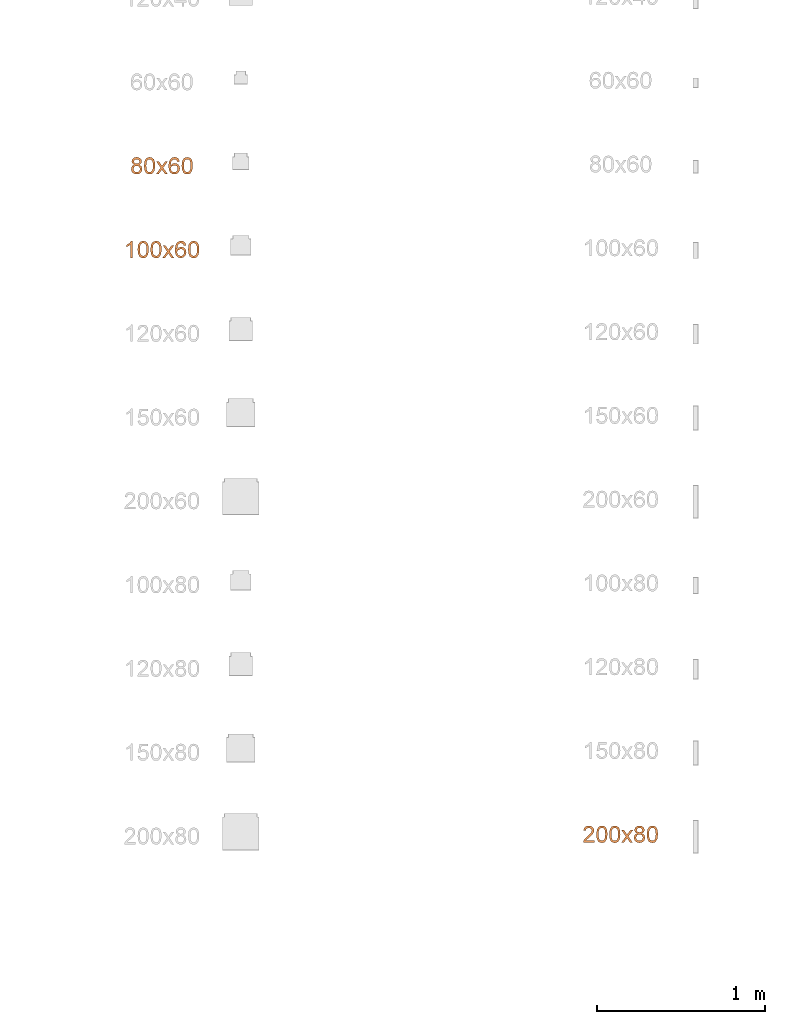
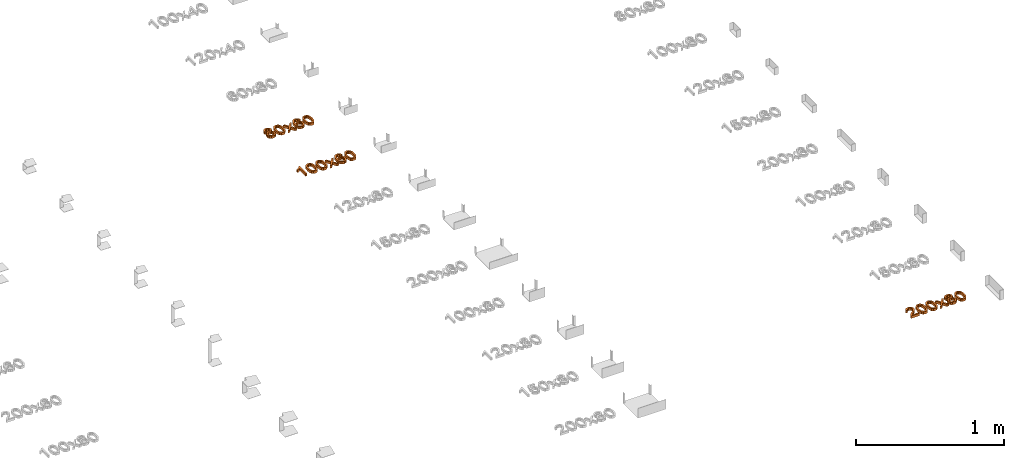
# One storey, part 56 of 71: 3 proxies.
"""IFC2X3 building model written with IfcOpenShell, lengths in millimetres."""

from ifc_helpers import new_model, entity, si_unit, converted_unit, derived_unit, direction, frame, origin, place, context, subcontext, project, spatial, polyline, outline, extrude, element, save


model = new_model("IFC2X3")

# Units and contexts
model_context = context("Model", 3, precision=0.01, world=origin(), true_north=direction((6.12303176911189e-17, 1.0)))
body_context = subcontext(model_context, "Body", "Model", "MODEL_VIEW")
ifc_project = project(units=[si_unit("LENGTHUNIT", "METRE", prefix="MILLI"), si_unit("AREAUNIT", "SQUARE_METRE"), si_unit("VOLUMEUNIT", "CUBIC_METRE"), converted_unit("PLANEANGLEUNIT", "DEGREE", entity("IfcRatioMeasure", 0.0174532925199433), si_unit("PLANEANGLEUNIT", "RADIAN"), dimensions=[0, 0, 0, 0, 0, 0, 0]), si_unit("MASSUNIT", "GRAM", prefix="KILO"), derived_unit("MASSDENSITYUNIT", [(si_unit("MASSUNIT", "GRAM", prefix="KILO"), 1), (si_unit("LENGTHUNIT", "METRE"), -3)]), si_unit("TIMEUNIT", "SECOND"), si_unit("FREQUENCYUNIT", "HERTZ"), si_unit("THERMODYNAMICTEMPERATUREUNIT", "DEGREE_CELSIUS"), derived_unit("THERMALTRANSMITTANCEUNIT", [(si_unit("MASSUNIT", "GRAM", prefix="KILO"), 1), (si_unit("THERMODYNAMICTEMPERATUREUNIT", "KELVIN"), -1), (si_unit("TIMEUNIT", "SECOND"), -3)]), derived_unit("VOLUMETRICFLOWRATEUNIT", [(si_unit("LENGTHUNIT", "METRE"), 3), (si_unit("TIMEUNIT", "SECOND"), -1)]), si_unit("ELECTRICCURRENTUNIT", "AMPERE"), si_unit("ELECTRICVOLTAGEUNIT", "VOLT"), si_unit("POWERUNIT", "WATT"), si_unit("FORCEUNIT", "NEWTON", prefix="KILO"), si_unit("ILLUMINANCEUNIT", "LUX"), si_unit("LUMINOUSFLUXUNIT", "LUMEN"), si_unit("LUMINOUSINTENSITYUNIT", "CANDELA"), derived_unit("USERDEFINED", [(si_unit("MASSUNIT", "GRAM", prefix="KILO"), -1), (si_unit("LENGTHUNIT", "METRE"), -2), (si_unit("TIMEUNIT", "SECOND"), 3), (si_unit("LUMINOUSFLUXUNIT", "LUMEN"), 1)]), derived_unit("LINEARVELOCITYUNIT", [(si_unit("LENGTHUNIT", "METRE"), 1), (si_unit("TIMEUNIT", "SECOND"), -1)]), si_unit("PRESSUREUNIT", "PASCAL"), derived_unit("USERDEFINED", [(si_unit("LENGTHUNIT", "METRE"), -2), (si_unit("MASSUNIT", "GRAM", prefix="KILO"), 1), (si_unit("TIMEUNIT", "SECOND"), -2)])], contexts=[model_context])

# Site, building, storey
site_placement = place(None, origin())
site = spatial("IfcSite", under=ifc_project, at=site_placement, Name="Default", CompositionType="ELEMENT")
building_placement = place(site_placement, origin())
building = spatial("IfcBuilding", under=site, at=building_placement, Name="Наименование здания", CompositionType="ELEMENT")
storey_placement = place(building_placement, origin())
storey = spatial("IfcBuildingStorey", under=building, at=storey_placement, Name="Этаж 01", CompositionType="ELEMENT", Elevation=0.0)

# Proxies
proxy_1_placement = place(storey_placement, origin())
element("IfcBuildingElementProxy", 1, at=proxy_1_placement, inside=storey, Name="Текст модели:100 мм Arial", ObjectType="Текст модели:100 мм Arial", context=body_context, shape_type="SweptSolid", body=[
    extrude(outline(polyline([(10.1224324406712, -11.221212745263), (26.4477736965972, -11.221212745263), (39.6861381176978, -0.090941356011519), (44.6322314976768, 11.3078156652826), (44.5856416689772, 23.416860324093), (39.6073830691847, 34.8346290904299), (29.7584701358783, 44.1595584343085), (17.4236057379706, 49.795656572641), (4.98749274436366, 50.1469317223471), (-6.20047708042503, 45.723606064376), (-14.790911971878, 37.0359017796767), (-20.0781666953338, 21.0056847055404), (-14.5070621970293, 5.37692494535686), (-28.0684052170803, 5.15563707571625), (-37.7221714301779, -2.60845010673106), (-41.5236361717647, -11.9357006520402), (-41.0036870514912, -22.2232653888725), (-36.1916154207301, -32.1870777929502), (-27.1167126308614, -40.5430713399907), (-16.0503295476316, -45.8123091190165), (-5.1824644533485, -46.5706787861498), (4.38453303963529, -43.2361071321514), (11.5483133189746, -36.2265209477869), (15.2516244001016, -24.0826582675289), (10.1224324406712, -11.221212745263)]), holes=[polyline([(1.34077476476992, -28.9039041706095), (-7.53771017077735, -33.9815875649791), (-20.2415350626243, -30.0339976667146), (-28.5905650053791, -19.6902819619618), (-26.9800933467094, -9.13787919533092), (-18.1108932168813, -3.87648928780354), (-5.45128168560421, -7.82385811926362), (3.15927028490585, -18.240304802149), (1.34077476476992, -28.9039041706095)]), polyline([(29.0262968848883, 6.56051660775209), (17.1806533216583, -1.51571690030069), (9.68494123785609, -1.27757268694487), (1.95268767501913, 2.3288558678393), (-4.46267094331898, 8.27886886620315), (-7.64161156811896, 15.3010558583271), (-4.59707955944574, 29.6929468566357), (7.31333657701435, 37.799466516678), (14.8367372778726, 37.4872096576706), (22.6595729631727, 33.8012523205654), (30.3730358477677, 25.5864099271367), (32.5711030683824, 15.5727469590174), (29.0262968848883, 6.56051660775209)])]), frame((21251.8607415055, -411.654222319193, 0.0), z_axis=(0.0, 0.0, 1.0), x_axis=(-0.829266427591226, -0.558853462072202, 0.0)), (0.0, 0.0, 1.0), 20.0),
    extrude(outline(polyline([(-7.02884310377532, -33.3490673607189), (17.5323805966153, -33.3490673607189), (35.1984171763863, -27.6137612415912), (43.3439841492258, -18.487651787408), (47.0516941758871, -5.75150665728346), (46.7162020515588, 4.48638208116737), (43.4465778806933, 13.0955287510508), (27.944430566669, 25.6659118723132), (-0.314338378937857, 32.2325535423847), (-24.0296505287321, 32.3678288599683), (-39.4143020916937, 28.0260881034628), (-49.7293680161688, 18.9002174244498), (-54.4436715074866, 4.63998875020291), (-50.8676582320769, -14.1301059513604), (-35.4058547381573, -26.7333390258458), (-7.02884310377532, -33.3490673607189)]), holes=[polyline([(-5.77428774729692, -20.8548320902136), (-25.0157644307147, -17.3562860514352), (-36.725708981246, -11.57179224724), (-41.0962588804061, -4.77599682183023), (-41.9669219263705, 3.21464792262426), (-39.2244253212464, 11.2791292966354), (-32.8654063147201, 17.2229259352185), (-20.9698370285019, 20.2947501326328), (-1.6176895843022, 19.7433141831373), (17.8514140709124, 16.2707701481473), (28.780364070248, 10.714159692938), (33.5546988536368, 3.61815959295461), (34.5599568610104, -4.47255337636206), (31.9421230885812, -12.1923199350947), (25.8471825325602, -18.1754808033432), (14.0250679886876, -21.4027476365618), (-5.77428774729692, -20.8548320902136)])]), frame((21329.7029366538, -417.512078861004, 0.0), z_axis=(0.0, 0.0, 1.0), x_axis=(0.101851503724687, -0.994799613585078, 0.0)), (0.0, 0.0, 1.0), 20.0),
    extrude(outline(polyline([(-34.5302215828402, -38.4265006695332), (-19.4225343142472, -38.4265006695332), (-0.341721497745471, -12.0616243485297), (2.47870713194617, -16.1328517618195), (17.8561745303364, -38.4265006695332), (32.9638617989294, -38.4265006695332), (7.40832586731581, -1.34399555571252), (33.9448804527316, 35.3461020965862), (18.8371931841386, 35.3461020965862), (4.95577923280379, 16.1671874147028), (0.0261604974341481, 9.34910777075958), (-5.66374769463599, 17.6877663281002), (-17.8529044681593, 35.3461020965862), (-32.9605917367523, 35.3461020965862), (-7.69936140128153, -1.34399555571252), (-34.5302215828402, -38.4265006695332)])), frame((21402.5445935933, -424.908755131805, 0.0)), (0.0, 0.0, 1.0), 20.0),
    extrude(outline(polyline([(6.79275401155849, -32.5027761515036), (18.3659045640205, -32.5027761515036), (28.1525204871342, -28.8011371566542), (35.6312934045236, -21.7178704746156), (40.2809149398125, -11.5729874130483), (41.4130789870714, 3.23667074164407), (36.139124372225, 16.3729018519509), (21.8599739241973, 28.8803269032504), (-1.50836821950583, 38.2054593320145), (-23.6059131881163, 41.7609274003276), (-39.9814227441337, 38.5965283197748), (-51.1650797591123, 29.9216784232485), (-57.6870671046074, 16.945794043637), (-57.9805556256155, -0.0494879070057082), (-49.2081886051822, -14.3141019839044), (-33.6167855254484, -22.9350568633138), (-20.6265742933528, -24.2502330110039), (-8.9780035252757, -20.6254922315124), (0.0919027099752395, -13.0350962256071), (5.34612034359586, -2.4533066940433), (5.85483161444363, 11.6447254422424), (-0.843339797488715, 24.9910631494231), (19.7707676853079, 15.5765036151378), (28.4840991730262, 4.26766164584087), (28.3893512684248, -7.46374532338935), (19.9956250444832, -18.19363367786), (8.63303585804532, -19.9825396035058), (6.79275401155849, -32.5027761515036)]), holes=[polyline([(-18.7586717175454, 29.9549594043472), (-11.6328110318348, 26.3613362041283), (-6.94154076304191, 20.2038317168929), (-5.85783236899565, 4.13761066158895), (-9.48331864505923, -3.95286412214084), (-15.1077394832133, -9.26901644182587), (-22.3091633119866, -11.5969098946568), (-30.6656585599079, -10.7226080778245), (-38.6094491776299, -7.06141592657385), (-43.863709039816, -1.22509865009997), (-46.1835287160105, 6.17768396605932), (-45.323998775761, 14.5382721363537), (-39.6901171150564, 24.7221971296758), (-30.0168134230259, 30.0585493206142), (-18.7586717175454, 29.9549594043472)])]), frame((21478.2025234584, -404.787517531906, 0.0), z_axis=(0.0, 0.0, 1.0), x_axis=(-0.267015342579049, 0.963692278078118, 0.0)), (0.0, 0.0, 1.0), 20.0),
    extrude(outline(polyline([(-7.02884310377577, -33.3490673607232), (17.5323805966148, -33.3490673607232), (35.1984171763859, -27.6137612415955), (43.3439841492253, -18.4876517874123), (47.0516941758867, -5.75150665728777), (46.7162020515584, 4.48638208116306), (43.4465778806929, 13.0955287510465), (27.9444305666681, 25.6659118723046), (-0.314338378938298, 32.2325535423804), (-24.0296505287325, 32.367828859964), (-39.4143020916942, 28.0260881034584), (-49.7293680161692, 18.9002174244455), (-54.4436715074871, 4.6399887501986), (-50.8676582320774, -14.1301059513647), (-35.4058547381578, -26.7333390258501), (-7.02884310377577, -33.3490673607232)]), holes=[polyline([(-5.77428774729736, -20.8548320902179), (-25.0157644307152, -17.3562860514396), (-36.7257089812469, -11.5717922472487), (-41.096258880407, -4.77599682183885), (-41.9669219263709, 3.21464792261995), (-39.2244253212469, 11.2791292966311), (-32.8654063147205, 17.2229259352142), (-20.9698370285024, 20.2947501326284), (-1.61768958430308, 19.7433141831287), (17.851414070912, 16.270770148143), (28.7803640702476, 10.7141596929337), (33.5546988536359, 3.61815959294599), (34.5599568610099, -4.47255337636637), (31.9421230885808, -12.192319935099), (25.8471825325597, -18.1754808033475), (14.0250679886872, -21.4027476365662), (-5.77428774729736, -20.8548320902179)])]), frame((21554.1600046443, -417.512078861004, 0.0), z_axis=(0.0, 0.0, 1.0), x_axis=(0.101851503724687, -0.994799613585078, 0.0)), (0.0, 0.0, 1.0), 20.0),
])
proxy_2_placement = place(storey_placement, origin())
element("IfcBuildingElementProxy", 2, at=proxy_2_placement, inside=storey, Name="Текст модели:100 мм Arial", ObjectType="Текст модели:100 мм Arial", context=body_context, shape_type="SweptSolid", body=[
    extrude(outline(polyline([(-63.8793021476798, -16.918484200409), (36.5770080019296, -16.918484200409), (36.5770080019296, -8.82508030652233), (23.2106288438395, 2.34626961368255), (11.4629304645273, 20.7526321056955), (-0.407395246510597, 20.7526321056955), (5.93243780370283, 7.53340574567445), (14.4059864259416, -4.36144543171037), (-63.8793021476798, -4.36144543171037), (-63.8793021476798, -16.918484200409)])), frame((21210.6140165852, -899.455953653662, 0.0), z_axis=(0.0, 0.0, 1.0), x_axis=(0.0, 1.0, 0.0)), (0.0, 0.0, 1.0), 20.0),
    extrude(outline(polyline([(-7.02884310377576, -33.3490673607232), (17.5323805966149, -33.3490673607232), (35.1984171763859, -27.6137612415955), (43.3439841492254, -18.4876517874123), (47.0516941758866, -5.75150665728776), (46.7162020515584, 4.48638208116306), (43.4465778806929, 13.0955287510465), (27.9444305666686, 25.6659118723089), (-0.314338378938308, 32.2325535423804), (-24.0296505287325, 32.367828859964), (-39.4143020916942, 28.0260881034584), (-49.7293680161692, 18.9002174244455), (-54.4436715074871, 4.63998875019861), (-50.8676582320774, -14.1301059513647), (-35.4058547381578, -26.7333390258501), (-7.02884310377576, -33.3490673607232)]), holes=[polyline([(-5.77428774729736, -20.8548320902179), (-25.0157644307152, -17.3562860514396), (-36.7257089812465, -11.5717922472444), (-41.0962588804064, -4.77599682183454), (-41.9669219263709, 3.21464792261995), (-39.2244253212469, 11.2791292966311), (-32.8654063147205, 17.2229259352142), (-20.9698370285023, 20.2947501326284), (-1.61768958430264, 19.743314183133), (17.8514140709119, 16.270770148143), (28.7803640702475, 10.7141596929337), (33.5546988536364, 3.6181595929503), (34.5599568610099, -4.47255337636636), (31.9421230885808, -12.192319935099), (25.8471825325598, -18.1754808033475), (14.0250679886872, -21.4027476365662), (-5.77428774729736, -20.8548320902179)])]), frame((21291.2470054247, -917.512078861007, 0.0), z_axis=(0.0, 0.0, 1.0), x_axis=(0.101851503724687, -0.994799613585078, 0.0)), (0.0, 0.0, 1.0), 20.0),
    extrude(outline(polyline([(-7.02884310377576, -33.3490673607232), (17.5323805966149, -33.3490673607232), (35.1984171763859, -27.6137612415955), (43.3439841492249, -18.4876517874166), (47.0516941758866, -5.75150665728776), (46.7162020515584, 4.48638208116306), (43.4465778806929, 13.0955287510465), (27.9444305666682, 25.6659118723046), (-0.314338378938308, 32.2325535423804), (-24.0296505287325, 32.367828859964), (-39.4143020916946, 28.0260881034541), (-49.7293680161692, 18.9002174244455), (-54.4436715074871, 4.63998875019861), (-50.8676582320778, -14.130105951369), (-35.4058547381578, -26.7333390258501), (-7.02884310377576, -33.3490673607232)]), holes=[polyline([(-5.7742877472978, -20.8548320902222), (-25.0157644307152, -17.3562860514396), (-36.7257089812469, -11.5717922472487), (-41.0962588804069, -4.77599682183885), (-41.9669219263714, 3.21464792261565), (-39.2244253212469, 11.2791292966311), (-32.8654063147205, 17.2229259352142), (-20.9698370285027, 20.2947501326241), (-1.61768958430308, 19.7433141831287), (17.8514140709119, 16.270770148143), (28.7803640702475, 10.7141596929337), (33.554698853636, 3.61815959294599), (34.5599568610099, -4.47255337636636), (31.9421230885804, -12.1923199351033), (25.8471825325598, -18.1754808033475), (14.0250679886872, -21.4027476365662), (-5.7742877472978, -20.8548320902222)])]), frame((21368.158867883, -917.512078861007, 0.0), z_axis=(0.0, 0.0, 1.0), x_axis=(0.101851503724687, -0.994799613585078, 0.0)), (0.0, 0.0, 1.0), 20.0),
    extrude(outline(polyline([(-34.5302215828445, -38.4265006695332), (-19.4225343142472, -38.4265006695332), (-0.341721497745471, -12.0616243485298), (2.47870713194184, -16.1328517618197), (17.8561745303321, -38.4265006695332), (32.9638617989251, -38.4265006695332), (7.40832586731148, -1.34399555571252), (33.9448804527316, 35.3461020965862), (18.8371931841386, 35.3461020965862), (4.95577923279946, 16.1671874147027), (0.0261604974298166, 9.34910777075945), (-5.66374769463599, 17.6877663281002), (-17.8529044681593, 35.3461020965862), (-32.9605917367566, 35.3461020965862), (-7.69936140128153, -1.34399555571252), (-34.5302215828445, -38.4265006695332)])), frame((21441.0005248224, -924.908755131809, 0.0)), (0.0, 0.0, 1.0), 20.0),
    extrude(outline(polyline([(6.79275401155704, -32.5027761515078), (18.3659045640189, -32.5027761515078), (28.1525204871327, -28.8011371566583), (35.6312934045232, -21.7178704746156), (40.2809149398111, -11.5729874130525), (41.4130789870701, 3.23667074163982), (36.1391243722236, 16.3729018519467), (21.8599739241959, 28.8803269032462), (-1.50836821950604, 38.2054593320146), (-23.6059131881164, 41.7609274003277), (-39.9814227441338, 38.5965283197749), (-51.1650797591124, 29.9216784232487), (-57.6870671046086, 16.9457940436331), (-57.9805556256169, -0.0494879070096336), (-49.2081886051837, -14.3141019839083), (-33.6167855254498, -22.9350568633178), (-20.6265742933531, -24.2502330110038), (-8.97800352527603, -20.6254922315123), (0.0919027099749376, -13.035096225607), (5.34612034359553, -2.45330669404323), (5.85483161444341, 11.6447254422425), (-0.843339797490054, 24.991063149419), (19.7707676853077, 15.5765036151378), (28.4840991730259, 4.26766164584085), (28.3893512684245, -7.46374532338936), (19.9956250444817, -18.1936336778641), (8.633035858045, -19.9825396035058), (6.79275401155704, -32.5027761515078)]), holes=[polyline([(-18.7586717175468, 29.9549594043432), (-11.6328110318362, 26.3613362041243), (-6.9415407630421, 20.203831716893), (-5.85783236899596, 4.13761066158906), (-9.48331864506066, -3.95286412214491), (-15.1077394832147, -9.26901644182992), (-22.3091633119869, -11.5969098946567), (-30.6656585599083, -10.7226080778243), (-38.6094491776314, -7.06141592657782), (-43.8637090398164, -1.22509865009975), (-46.1835287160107, 6.17768396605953), (-45.3239987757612, 14.5382721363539), (-39.6901171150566, 24.722197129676), (-30.0168134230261, 30.0585493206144), (-18.7586717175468, 29.9549594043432)])]), frame((21516.6584546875, -904.787517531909, 0.0), z_axis=(0.0, 0.0, 1.0), x_axis=(-0.267015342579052, 0.963692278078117, 0.0)), (0.0, 0.0, 1.0), 20.0),
    extrude(outline(polyline([(-7.02884310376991, -33.3490673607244), (17.5323805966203, -33.3490673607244), (35.1984171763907, -27.6137612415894), (43.3439841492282, -18.487651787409), (47.0516941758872, -5.75150665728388), (46.7162020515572, 4.48638208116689), (43.4465778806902, 13.0955287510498), (27.9444305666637, 25.6659118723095), (-0.314338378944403, 32.2325535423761), (-24.0296505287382, 32.3678288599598), (-39.4143020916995, 28.0260881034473), (-49.7293680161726, 18.9002174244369), (-54.4436715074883, 4.63998875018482), (-50.8676582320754, -14.1301059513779), (-35.4058547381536, -26.7333390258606), (-7.02884310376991, -33.3490673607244)]), holes=[polyline([(-5.77428774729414, -20.8548320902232), (-25.0157644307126, -17.3562860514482), (-36.7257089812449, -11.5717922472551), (-41.0962588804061, -4.77599682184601), (-41.966921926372, 3.21464792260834), (-39.2244253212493, 11.2791292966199), (-32.865406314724, 17.2229259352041), (-20.9698370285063, 20.2947501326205), (-1.61768958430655, 19.7433141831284), (17.8514140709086, 16.2707701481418), (28.7803640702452, 10.7141596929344), (33.5546988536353, 3.61815959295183), (34.5599568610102, -4.47255337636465), (31.9421230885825, -12.1923199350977), (25.847182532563, -18.175480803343), (14.025067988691, -21.4027476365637), (-5.77428774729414, -20.8548320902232)])]), frame((21592.6159358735, -917.512078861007, 0.0), z_axis=(0.0, 0.0, 1.0), x_axis=(0.101851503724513, -0.994799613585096, 0.0)), (0.0, 0.0, 1.0), 20.0),
])
proxy_3_placement = place(storey_placement, origin())
element("IfcBuildingElementProxy", 3, at=proxy_3_placement, inside=storey, Name="Текст модели:100 мм Arial", ObjectType="Текст модели:100 мм Arial", context=body_context, shape_type="SweptSolid", body=[
    extrude(outline(polyline([(-32.3858783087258, -45.166947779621), (-32.3858783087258, -57.7239865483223), (33.5385752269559, -57.7239865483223), (32.1896745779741, -49.0664969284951), (24.5622545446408, -35.7369059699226), (8.84143061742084, -21.1810416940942), (-12.8390816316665, -0.260818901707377), (-18.259209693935, 13.963951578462), (-13.1456499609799, 25.4786580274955), (0.208466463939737, 30.1752848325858), (14.1266686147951, 25.5890226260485), (19.4119066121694, 12.9093565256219), (31.968945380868, 14.4789863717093), (28.9247218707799, 26.6252235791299), (22.3426998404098, 35.4973110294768), (12.5662358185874, 40.9235704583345), (-0.0613136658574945, 42.7323236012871), (-12.7808336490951, 40.7212353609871), (-22.5389035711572, 34.6879706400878), (-28.7469122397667, 25.6748617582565), (-30.816248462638, 14.7242410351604), (-28.584431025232, 2.81712712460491), (-21.1654774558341, -9.49465698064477), (-3.17604789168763, -26.6992716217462), (11.2694517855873, -38.7780637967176), (16.9348345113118, -45.166947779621), (-32.3858783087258, -45.166947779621)])), frame((23949.9248832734, -4395.61126925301, 0.0), z_axis=(0.0, 0.0, -1.0), x_axis=(-1.0, 0.0, 0.0)), (0.0, 0.0, -1.0), 20.0),
    extrude(outline(polyline([(-7.02884310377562, -33.3490673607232), (17.5323805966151, -33.3490673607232), (35.1984171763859, -27.6137612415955), (43.3439841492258, -18.4876517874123), (47.051694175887, -5.75150665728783), (46.7162020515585, 4.48638208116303), (43.4465778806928, 13.0955287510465), (27.9444305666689, 25.6659118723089), (-0.314338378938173, 32.2325535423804), (-24.0296505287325, 32.367828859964), (-39.4143020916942, 28.0260881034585), (-49.729368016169, 18.9002174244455), (-54.4436715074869, 4.63998875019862), (-50.867658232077, -14.1301059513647), (-35.4058547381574, -26.7333390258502), (-7.02884310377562, -33.3490673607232)]), holes=[polyline([(-5.77428774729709, -20.8548320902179), (-25.0157644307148, -17.3562860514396), (-36.7257089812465, -11.5717922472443), (-41.0962588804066, -4.77599682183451), (-41.9669219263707, 3.21464792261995), (-39.2244253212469, 11.2791292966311), (-32.8654063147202, 17.2229259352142), (-20.969837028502, 20.2947501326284), (-1.61768958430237, 19.743314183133), (17.851414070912, 16.270770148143), (28.7803640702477, 10.7141596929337), (33.5546988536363, 3.61815959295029), (34.5599568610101, -4.47255337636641), (31.9421230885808, -12.192319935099), (25.8471825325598, -18.1754808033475), (14.0250679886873, -21.4027476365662), (-5.77428774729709, -20.8548320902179)])]), frame((24028.7593379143, -4407.51207886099, 0.0), z_axis=(0.0, 0.0, 1.0), x_axis=(0.101851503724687, -0.994799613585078, 0.0)), (0.0, 0.0, 1.0), 20.0),
    extrude(outline(polyline([(-7.02884310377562, -33.3490673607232), (17.5323805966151, -33.3490673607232), (35.1984171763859, -27.6137612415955), (43.3439841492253, -18.4876517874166), (47.051694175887, -5.75150665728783), (46.7162020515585, 4.48638208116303), (43.4465778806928, 13.0955287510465), (27.9444305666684, 25.6659118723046), (-0.314338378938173, 32.2325535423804), (-24.0296505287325, 32.367828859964), (-39.4143020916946, 28.0260881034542), (-49.729368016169, 18.9002174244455), (-54.4436715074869, 4.63998875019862), (-50.8676582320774, -14.130105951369), (-35.4058547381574, -26.7333390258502), (-7.02884310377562, -33.3490673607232)]), holes=[polyline([(-5.77428774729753, -20.8548320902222), (-25.0157644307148, -17.3562860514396), (-36.7257089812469, -11.5717922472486), (-41.096258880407, -4.77599682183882), (-41.9669219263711, 3.21464792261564), (-39.2244253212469, 11.2791292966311), (-32.8654063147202, 17.2229259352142), (-20.9698370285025, 20.2947501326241), (-1.61768958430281, 19.7433141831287), (17.851414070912, 16.270770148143), (28.7803640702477, 10.7141596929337), (33.5546988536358, 3.61815959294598), (34.5599568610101, -4.47255337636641), (31.9421230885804, -12.1923199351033), (25.8471825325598, -18.1754808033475), (14.0250679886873, -21.4027476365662), (-5.77428774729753, -20.8548320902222)])]), frame((24105.6712003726, -4407.51207886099, 0.0), z_axis=(0.0, 0.0, 1.0), x_axis=(0.101851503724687, -0.994799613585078, 0.0)), (0.0, 0.0, 1.0), 20.0),
    extrude(outline(polyline([(-34.5302215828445, -38.4265006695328), (-19.4225343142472, -38.4265006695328), (-0.341721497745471, -12.0616243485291), (2.47870713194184, -16.1328517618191), (17.8561745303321, -38.4265006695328), (32.9638617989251, -38.4265006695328), (7.40832586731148, -1.34399555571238), (33.9448804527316, 35.3461020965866), (18.8371931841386, 35.3461020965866), (4.95577923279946, 16.1671874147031), (0.0261604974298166, 9.34910777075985), (-5.66374769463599, 17.6877663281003), (-17.8529044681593, 35.3461020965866), (-32.9605917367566, 35.3461020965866), (-7.69936140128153, -1.34399555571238), (-34.5302215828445, -38.4265006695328)])), frame((24178.512857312, -4414.9087551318, 0.0)), (0.0, 0.0, 1.0), 20.0),
    extrude(outline(polyline([(10.1224324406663, -11.2212127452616), (26.4477736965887, -11.2212127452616), (39.6861381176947, -0.0909413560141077), (44.6322314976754, 11.3078156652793), (44.5856416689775, 23.4168603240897), (39.6073830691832, 34.8346290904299), (29.7584701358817, 44.1595584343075), (17.4236057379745, 49.7956565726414), (4.98749274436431, 50.1469317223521), (-6.20047708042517, 45.7236060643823), (-14.7909119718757, 37.0359017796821), (-20.078166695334, 21.0056847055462), (-14.5070621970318, 5.37692494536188), (-28.0684052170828, 5.15563707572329), (-37.7221714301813, -2.60845010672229), (-41.5236361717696, -11.935700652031), (-41.0036870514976, -22.2232653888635), (-36.191615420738, -32.187077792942), (-27.1167126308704, -40.5430713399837), (-16.0503295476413, -45.812309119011), (-5.18246445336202, -46.5706787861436), (4.384533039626, -43.2361071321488), (11.5483133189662, -36.2265209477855), (15.251624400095, -24.0826582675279), (10.1224324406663, -11.2212127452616)]), holes=[polyline([(29.0262968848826, 6.56051660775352), (17.1806533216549, -1.51571690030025), (9.68494123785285, -1.27757268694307), (1.95268767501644, 2.32885586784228), (-4.46267094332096, 8.27886886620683), (-7.6416115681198, 15.3010558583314), (-4.59707955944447, 29.6929468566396), (7.31333657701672, 37.7994665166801), (14.8367372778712, 37.4872096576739), (22.6595729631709, 33.8012523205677), (30.3730358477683, 25.5864099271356), (32.5711030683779, 15.5727469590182), (29.0262968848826, 6.56051660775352)]), polyline([(1.34077476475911, -28.903904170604), (-7.53771017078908, -33.9815875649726), (-20.2415350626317, -30.0339976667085), (-28.5905650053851, -19.6902819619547), (-26.980093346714, -9.13787919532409), (-18.1108932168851, -3.87648928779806), (-5.45128168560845, -7.82385811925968), (3.15927028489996, -18.2403048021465), (1.34077476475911, -28.903904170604)])]), frame((24252.2860732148, -4401.65422231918, 0.0), z_axis=(0.0, 0.0, 1.0), x_axis=(-0.829266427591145, -0.558853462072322, 0.0)), (0.0, 0.0, 1.0), 20.0),
    extrude(outline(polyline([(-7.02884310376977, -33.3490673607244), (17.5323805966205, -33.3490673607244), (35.1984171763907, -27.6137612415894), (43.3439841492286, -18.4876517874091), (47.0516941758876, -5.75150665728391), (46.7162020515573, 4.48638208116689), (43.44657788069, 13.0955287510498), (27.9444305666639, 25.6659118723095), (-0.314338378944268, 32.232553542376), (-24.0296505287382, 32.3678288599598), (-39.4143020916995, 28.0260881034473), (-49.7293680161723, 18.9002174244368), (-54.4436715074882, 4.63998875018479), (-50.8676582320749, -14.1301059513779), (-35.4058547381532, -26.7333390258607), (-7.02884310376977, -33.3490673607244)]), holes=[polyline([(-5.77428774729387, -20.8548320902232), (-25.0157644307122, -17.3562860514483), (-36.7257089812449, -11.5717922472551), (-41.0962588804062, -4.77599682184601), (-41.9669219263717, 3.2146479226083), (-39.2244253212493, 11.2791292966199), (-32.8654063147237, 17.2229259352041), (-20.969837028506, 20.2947501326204), (-1.61768958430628, 19.7433141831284), (17.8514140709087, 16.2707701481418), (28.7803640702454, 10.7141596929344), (33.5546988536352, 3.61815959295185), (34.5599568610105, -4.47255337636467), (31.9421230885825, -12.1923199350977), (25.847182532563, -18.175480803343), (14.0250679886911, -21.4027476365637), (-5.77428774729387, -20.8548320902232)])]), frame((24330.1282683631, -4407.51207886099, 0.0), z_axis=(0.0, 0.0, 1.0), x_axis=(0.101851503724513, -0.994799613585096, 0.0)), (0.0, 0.0, 1.0), 20.0),
])

save(model, "model.ifc")
